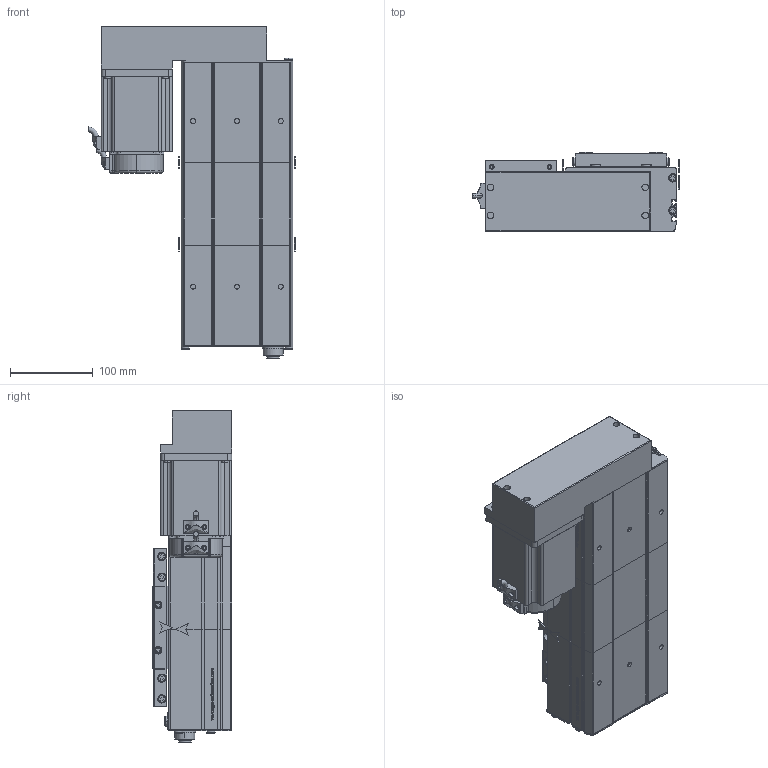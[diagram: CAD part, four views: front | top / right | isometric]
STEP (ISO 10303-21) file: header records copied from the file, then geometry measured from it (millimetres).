
FILE_DESCRIPTION (( 'STEP AP214' ), '1' );
FILE_NAME ('D14 CSH BR S100.STEP', '2010-06-29T14:55:11', ( 'Conseil Régional Haute-Normandie' ), ( 'Conseil Régional Haute-Normandie' ), 'SwSTEP 2.0', 'SolidWorks 2010', '' );
FILE_SCHEMA (( 'AUTOMOTIVE_DESIGN' ));
Length unit declared in the file: millimetre
Products named in the file (26): Tail D14; chariot supérieur D14; charriot inférieur D14; chariot D14; vis CHC M5; vis CHC M7; plaque de bout tail d14; couvercle tail; corps tail d14; Vis CHC M8; plaque de maintient D14; couvercle CSH course S100; course CSH S100; vis CHC M5.5; corps CSH 100; corps head d14; couvercle head d14; GMB 90 100 310; Head D14  CSH BR; Conecteur_Default; corps GMB 90 100 310; plaque de bout head d14 BR; D14 CSH BR S100; Conecteur2_Default; codeur GMB 90 100 310; avant GMB 90 100 310
Assembly tree (48 placements, depth 4):
  D14 CSH BR S100
    Tail D14
      vis CHC M7  x4
      plaque de bout tail d14
      Vis CHC M8  x2
      couvercle tail
      plaque de maintient D14
      corps tail d14
    course CSH S100
      couvercle CSH course S100
      corps CSH 100
    chariot D14
      vis CHC M7  x8
      vis CHC M5  x4
      charriot inférieur D14
      chariot supérieur D14
    Head D14  CSH BR
      corps head d14
      vis CHC M5.5  x4
      Vis CHC M8  x2
      GMB 90 100 310
        Conecteur2_Default
        Conecteur_Default
        corps GMB 90 100 310
        codeur GMB 90 100 310
        avant GMB 90 100 310
      plaque de bout head d14 BR
      couvercle head d14
      vis CHC M7  x2
      plaque de maintient D14
Bounding box: 250.75 x 95.75 x 401.3 mm (x, y, z)
Volume: 2749499.3 mm3; surface area: 612396.5 mm2
Topology: 49 solids, 49 shells, 2420 faces, 6199 edges, 4086 vertices
Faces by surface type: plane 1375, bspline 538, cylinder 394, torus 61, cone 52
Entity records: 106544 total; most frequent: CARTESIAN_POINT 57819, ORIENTED_EDGE 10650, DIRECTION 7904, EDGE_CURVE 5325, LINE 3610, VECTOR 3610, VERTEX_POINT 3534, EDGE_LOOP 2271
